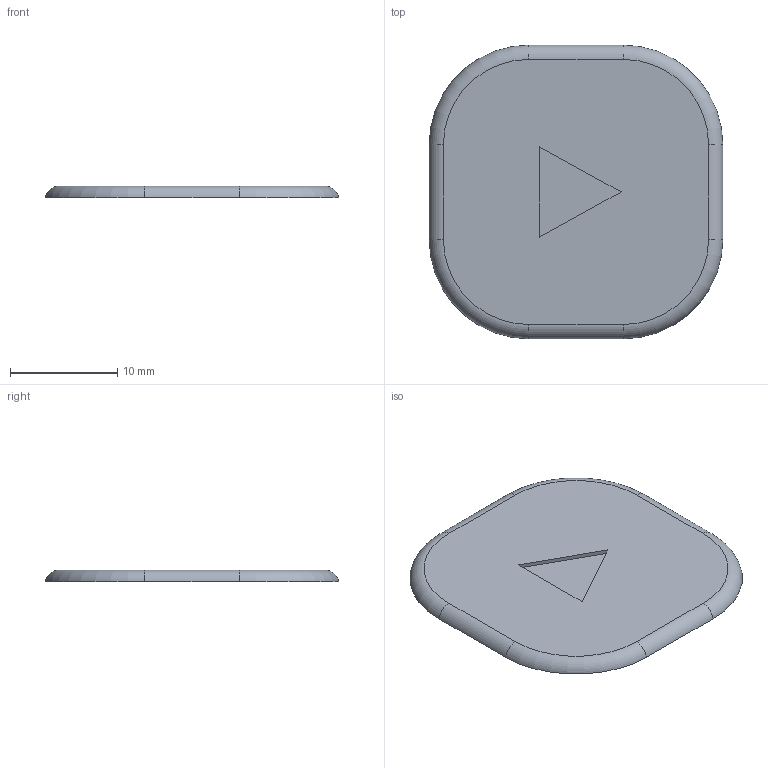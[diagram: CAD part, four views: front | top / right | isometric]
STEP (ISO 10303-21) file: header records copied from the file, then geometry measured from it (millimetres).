
FILE_DESCRIPTION(('Open CASCADE Model'),'2;1');
FILE_NAME('C27_UC1_10_Front_Action_Pewter_Cap','2026-09-09T20:28:15',( 'Author'),('Open CASCADE'),'Open CASCADE STEP processor 7.9', 'build123d','Unknown');
FILE_SCHEMA(('AUTOMOTIVE_DESIGN { 1 0 10303 214 1 1 1 1 }'));
Length unit declared in the file: millimetre
Products named in the file (2): C27_UC1_10_Front_Action_Pewter_Cap
Assembly tree (1 placements, depth 2):
  C27_UC1_10_Front_Action_Pewter_Cap
    C27_UC1_10_Front_Action_Pewter_Cap
Bounding box: 27.35 x 27.35 x 1.1 mm (x, y, z)
Volume: 696.7 mm3; surface area: 1408.2 mm2
Topology: 1 solids, 1 shells, 14 faces, 33 edges, 22 vertices
Faces by surface type: plane 6, cylinder 4, torus 4
Entity records: 878 total; most frequent: CARTESIAN_POINT 165, DIRECTION 139, LINE 71, VECTOR 71, ORIENTED_EDGE 66, PCURVE 66, DEFINITIONAL_REPRESENTATION 66, EDGE_CURVE 33
